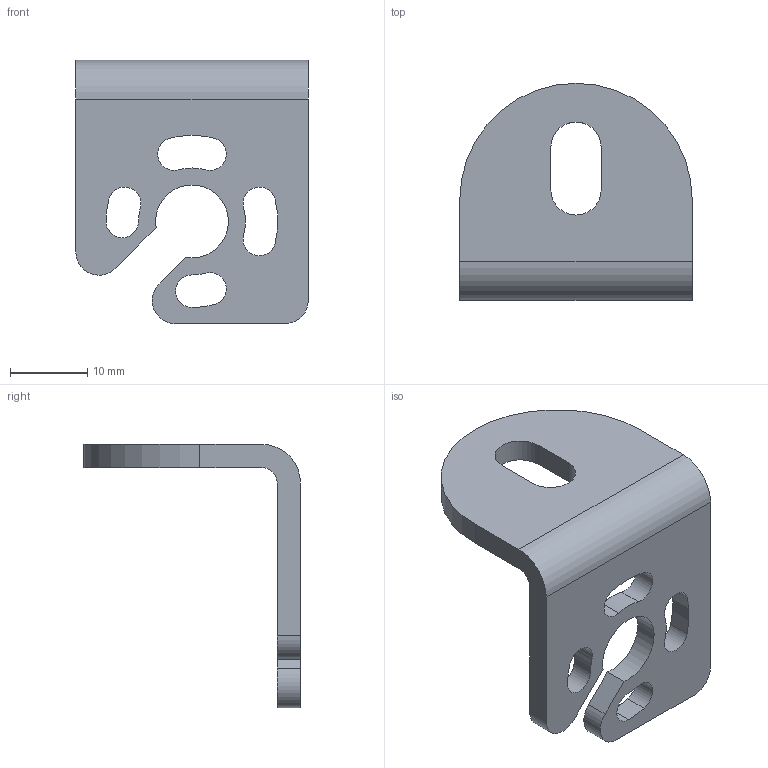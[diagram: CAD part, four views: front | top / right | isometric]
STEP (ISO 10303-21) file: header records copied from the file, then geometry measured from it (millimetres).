
FILE_DESCRIPTION((''),'2;1');
FILE_NAME('SMT1-ZCZJ','2025-08-04T15:42:16',('Administrator'),(''),'CREO PARAMETRIC BY PTC INC, 2016510','CREO PARAMETRIC BY PTC INC, 2016510','');
FILE_SCHEMA(('CONFIG_CONTROL_DESIGN'));
Length unit declared in the file: millimetre
Products named in the file (1): SMT1-ZCZJ
Bounding box: 30 x 28 x 34 mm (x, y, z)
Volume: 3828.6 mm3; surface area: 3456.6 mm2
Topology: 1 solids, 1 shells, 36 faces, 125 edges, 91 vertices
Faces by surface type: cylinder 25, plane 11
Entity records: 1484 total; most frequent: DIRECTION 270, CARTESIAN_POINT 252, ORIENTED_EDGE 250, EDGE_CURVE 125, AXIS2_PLACEMENT_3D 109, VERTEX_POINT 91, CIRCLE 73, VECTOR 52
